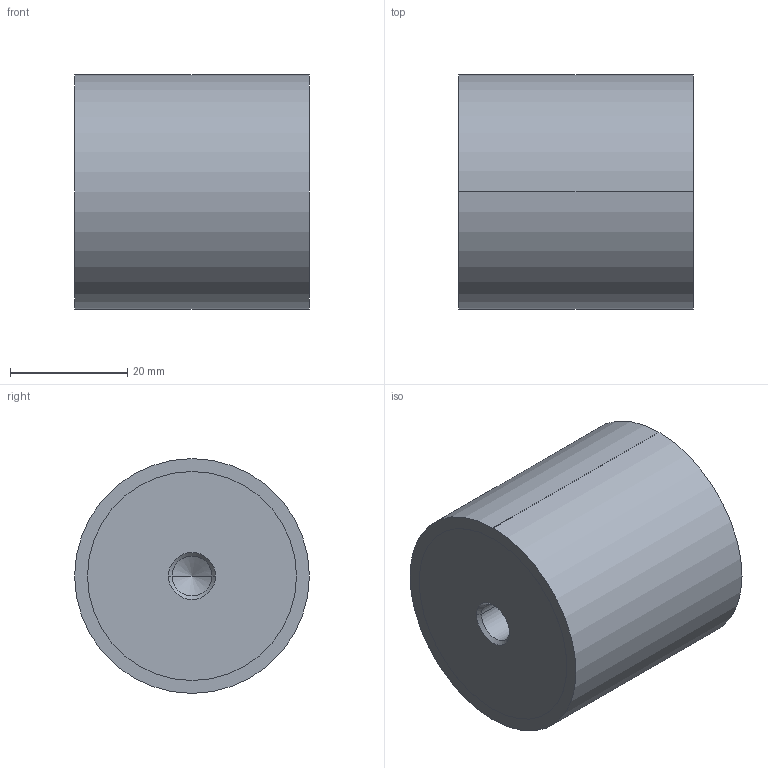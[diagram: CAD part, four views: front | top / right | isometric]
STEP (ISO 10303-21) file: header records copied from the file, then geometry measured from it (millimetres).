
FILE_DESCRIPTION (( 'STEP AP214' ), '1' );
FILE_NAME ('451-40-40-M8-EE-70.step', '2020-03-05T09:13:07', ( '' ), ( '' ), 'SwSTEP 2.0', 'SolidWorks 2019', '' );
FILE_SCHEMA (( 'AUTOMOTIVE_DESIGN' ));
Length unit declared in the file: millimetre
Products named in the file (1): 451-40-40-M8-EE-70
Bounding box: 40 x 40 x 40 mm (x, y, z)
Volume: 49607.9 mm3; surface area: 7881.7 mm2
Topology: 1 solids, 1 shells, 22 faces, 46 edges, 26 vertices
Faces by surface type: cylinder 10, cone 8, plane 4
Entity records: 684 total; most frequent: DIRECTION 112, CARTESIAN_POINT 91, ORIENTED_EDGE 84, AXIS2_PLACEMENT_3D 47, EDGE_CURVE 42, EDGE_LOOP 26, VERTEX_POINT 26, CIRCLE 24
